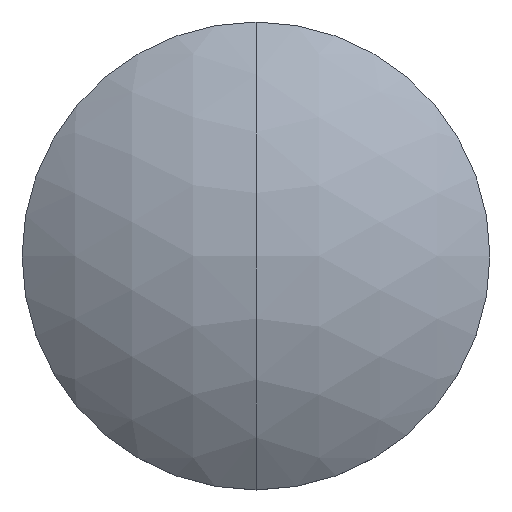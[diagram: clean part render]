
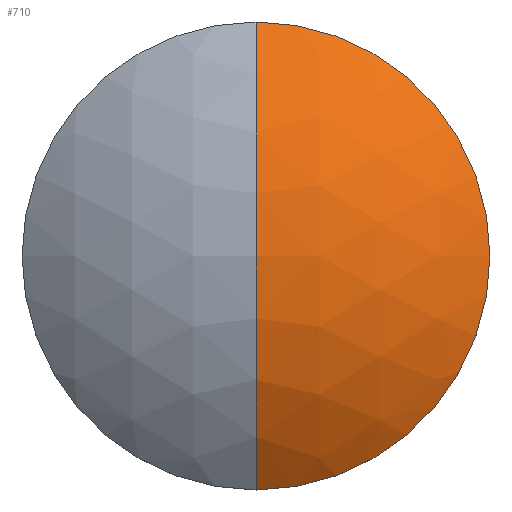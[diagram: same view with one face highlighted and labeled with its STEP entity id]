
A CAD part, top view. The second image highlights one B-rep face of the part: STEP entity #710.
In plain terms, the highlighted spherical face has radius 13.328 mm.
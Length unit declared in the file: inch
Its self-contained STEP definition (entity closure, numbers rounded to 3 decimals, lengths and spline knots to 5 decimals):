
#189=CARTESIAN_POINT('',(0.,0.,-0.37197));
#190=DIRECTION('',(1.,0.,0.));
#191=DIRECTION('',(0.,0.621,0.784));
#192=AXIS2_PLACEMENT_3D('',#189,#190,#191);
#194=CARTESIAN_POINT('',(0.,0.,0.03937));
#195=DIRECTION('',(0.,0.,1.));
#196=DIRECTION('',(0.,-1.,0.));
#197=AXIS2_PLACEMENT_3D('',#194,#195,#196);
#199=CARTESIAN_POINT('',(0.,0.,-0.37197));
#200=DIRECTION('',(-1.,0.,0.));
#201=DIRECTION('',(0.,-0.621,0.784));
#202=AXIS2_PLACEMENT_3D('',#199,#200,#201);
#389=CARTESIAN_POINT('',(0.,-0.32579,0.03937));
#390=CARTESIAN_POINT('',(0.,0.,0.15276));
#391=VERTEX_POINT('',#389);
#392=VERTEX_POINT('',#390);
#406=CARTESIAN_POINT('',(0.,0.32579,0.03937));
#407=VERTEX_POINT('',#406);
#698=CARTESIAN_POINT('',(0.,0.,-0.37197));
#699=DIRECTION('',(1.,0.,0.));
#700=DIRECTION('',(0.,1.,0.));
#701=AXIS2_PLACEMENT_3D('',#698,#699,#700);
#702=SPHERICAL_SURFACE('',#701,0.52473);
#704=ORIENTED_EDGE('',*,*,#703,.F.);
#705=ORIENTED_EDGE('',*,*,#688,.F.);
#707=ORIENTED_EDGE('',*,*,#706,.T.);
#708=EDGE_LOOP('',(#704,#705,#707));
#709=FACE_OUTER_BOUND('',#708,.F.);
#193=CIRCLE('',#192,0.52473);
#198=CIRCLE('',#197,0.32579);
#203=CIRCLE('',#202,0.52473);
#688=EDGE_CURVE('',#391,#407,#198,.T.);
#703=EDGE_CURVE('',#407,#392,#193,.T.);
#706=EDGE_CURVE('',#391,#392,#203,.T.);
#710=ADVANCED_FACE('',(#709),#702,.T.);
